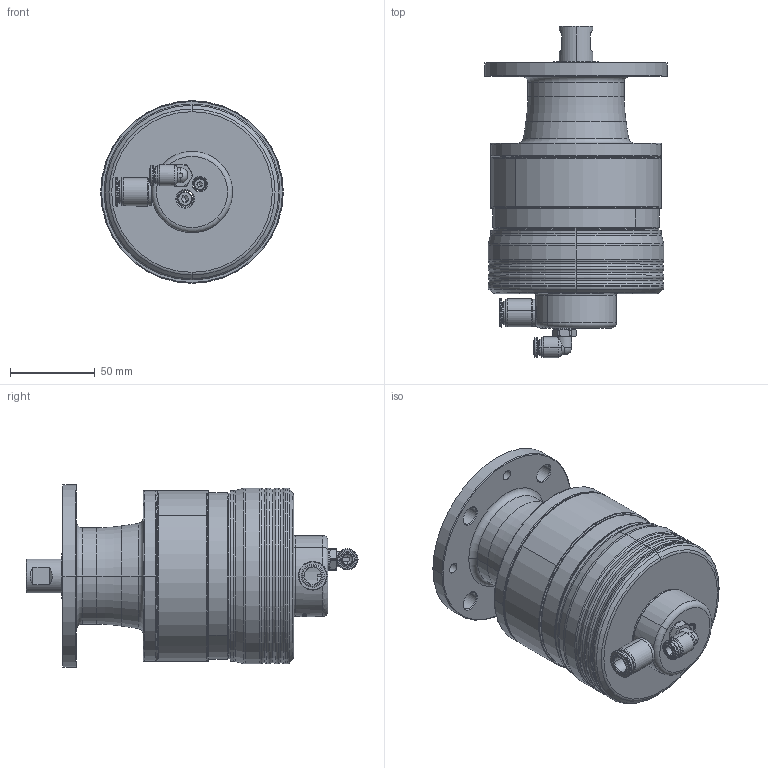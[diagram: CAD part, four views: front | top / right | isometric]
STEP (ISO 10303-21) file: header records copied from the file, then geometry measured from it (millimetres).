
FILE_DESCRIPTION (( 'STEP AP214' ), '1' );
FILE_NAME ('Rührwerksantrieb eco-Drive 450 INOX mit Getriebe und Gewindenabe_6025+5047.STEP', '2024-04-10T12:19:07', ( '' ), ( '' ), 'SwSTEP 2.0', 'SolidWorks 2022', '' );
FILE_SCHEMA (( 'AUTOMOTIVE_DESIGN' ));
Length unit declared in the file: millimetre
Products named in the file (1): Rührwerksantrieb eco-Drive 450 INOX mit Getriebe und Gewindenabe_6025+5047
Bounding box: 108 x 196.35 x 108 mm (x, y, z)
Surface area: 83677 mm2 (no closed solid volume)
Topology: 0 solids, 31 shells, 369 faces, 993 edges, 649 vertices
Faces by surface type: cylinder 103, cone 84, plane 84, torus 82, bspline 15, sphere 1
Entity records: 19753 total; most frequent: CARTESIAN_POINT 6541, DIRECTION 2031, ORIENTED_EDGE 1672, EDGE_CURVE 981, AXIS2_PLACEMENT_3D 859, VERTEX_POINT 649, CIRCLE 504, EDGE_LOOP 439
